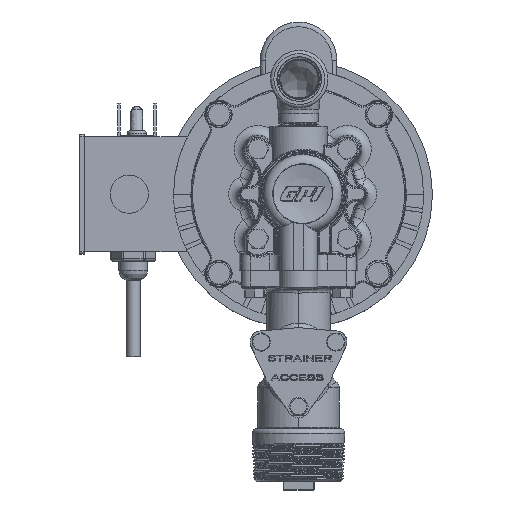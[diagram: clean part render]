
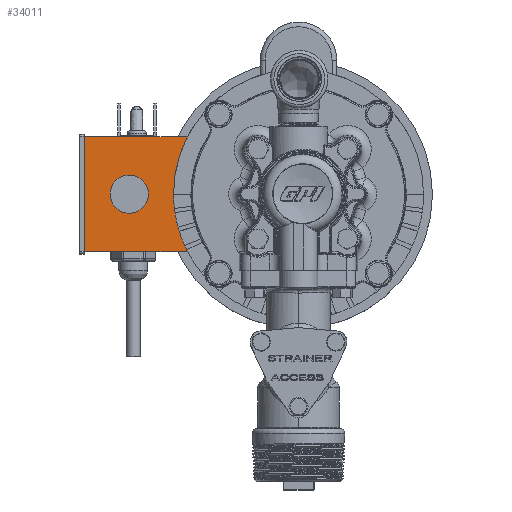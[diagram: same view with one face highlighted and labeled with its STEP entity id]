
A CAD part, top view. The second image highlights one B-rep face of the part: STEP entity #34011.
In plain terms, the highlighted planar face has unit normal (0, 0, 1).
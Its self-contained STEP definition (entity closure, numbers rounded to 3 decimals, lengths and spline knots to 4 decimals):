
#2716=FACE_BOUND('',#6012,.T.);
#2914=PLANE('',#36203);
#3991=FACE_OUTER_BOUND('',#6011,.T.);
#6011=EDGE_LOOP('',(#23192,#23193,#23194,#23195,#23196));
#6012=EDGE_LOOP('',(#23197));
#7937=LINE('',#62998,#10027);
#7938=LINE('',#63000,#10028);
#7939=LINE('',#63002,#10029);
#10027=VECTOR('',#39767,0.3937);
#10028=VECTOR('',#39768,0.3937);
#10029=VECTOR('',#39769,0.3937);
#12152=CIRCLE('',#36204,3.25);
#12153=CIRCLE('',#36205,3.25);
#12154=CIRCLE('',#36206,0.5);
#13853=VERTEX_POINT('',#62994);
#13854=VERTEX_POINT('',#62995);
#13855=VERTEX_POINT('',#62997);
#13856=VERTEX_POINT('',#62999);
#13857=VERTEX_POINT('',#63001);
#13858=VERTEX_POINT('',#63004);
#17356=EDGE_CURVE('',#13853,#13854,#12152,.T.);
#17357=EDGE_CURVE('',#13855,#13853,#7937,.T.);
#17358=EDGE_CURVE('',#13856,#13855,#7938,.T.);
#17359=EDGE_CURVE('',#13857,#13856,#7939,.T.);
#17360=EDGE_CURVE('',#13854,#13857,#12153,.T.);
#17361=EDGE_CURVE('',#13858,#13858,#12154,.T.);
#23192=ORIENTED_EDGE('',*,*,#17356,.F.);
#23193=ORIENTED_EDGE('',*,*,#17357,.F.);
#23194=ORIENTED_EDGE('',*,*,#17358,.F.);
#23195=ORIENTED_EDGE('',*,*,#17359,.F.);
#23196=ORIENTED_EDGE('',*,*,#17360,.F.);
#23197=ORIENTED_EDGE('',*,*,#17361,.T.);
#34011=ADVANCED_FACE('',(#3991,#2716),#2914,.F.);
#36203=AXIS2_PLACEMENT_3D('',#62993,#39763,#39764);
#36204=AXIS2_PLACEMENT_3D('',#62996,#39765,#39766);
#36205=AXIS2_PLACEMENT_3D('',#63003,#39770,#39771);
#36206=AXIS2_PLACEMENT_3D('',#63005,#39772,#39773);
#39763=DIRECTION('center_axis',(0.,0.,
-1.));
#39764=DIRECTION('ref_axis',(-1.,0.,0.));
#39765=DIRECTION('center_axis',(0.,0.,
1.));
#39766=DIRECTION('ref_axis',(1.,0.,0.));
#39767=DIRECTION('',(1.,0.,0.));
#39768=DIRECTION('',(0.,1.,0.));
#39769=DIRECTION('',(-1.,0.,0.));
#39770=DIRECTION('center_axis',(0.,0.,
1.));
#39771=DIRECTION('ref_axis',(1.,0.,0.));
#39772=DIRECTION('center_axis',(0.,0.,
-1.));
#39773=DIRECTION('ref_axis',(-1.,0.,0.));
#62993=CARTESIAN_POINT('Origin',(-4.2869,0.,
5.25));
#62994=CARTESIAN_POINT('',(-2.8831,1.5,5.25));
#62995=CARTESIAN_POINT('',(-3.25,0.,5.25));
#62996=CARTESIAN_POINT('Origin',(0.,0.,
5.25));
#62997=CARTESIAN_POINT('',(-5.6,1.5,5.25));
#62998=CARTESIAN_POINT('',(-2.8831,1.5,5.25));
#62999=CARTESIAN_POINT('',(-5.6,-1.5,5.25));
#63000=CARTESIAN_POINT('',(-5.6,1.5,5.25));
#63001=CARTESIAN_POINT('',(-2.8831,-1.5,5.25));
#63002=CARTESIAN_POINT('',(-5.6,-1.5,5.25));
#63003=CARTESIAN_POINT('Origin',(0.,0.,
5.25));
#63004=CARTESIAN_POINT('',(-3.925,0.,5.25));
#63005=CARTESIAN_POINT('Origin',(-4.425,0.,5.25));
